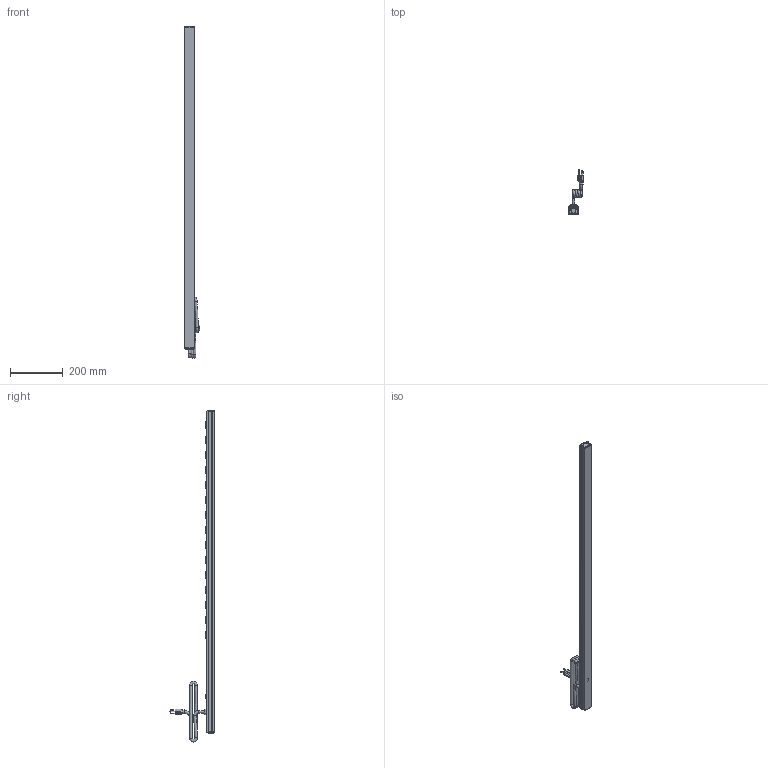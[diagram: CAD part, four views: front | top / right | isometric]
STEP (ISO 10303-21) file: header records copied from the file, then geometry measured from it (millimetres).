
FILE_DESCRIPTION(/* description */ (''),/* implementation_level */ '2;1');
FILE_NAME(/* name */ 'E:\Manufacturing\drawings\Web Drawings\POWER BARS\Surge Protection\1585, 87, 88 ''S'' series\STEP''s\1585H15A1S.stp',/* time_stamp */ '2019-01-14T12:23:38-05:00',/* author */ ('tfoster'),/* organization */ (''),/* preprocessor_version */ 'ST-DEVELOPER v17',/* originating_system */ 'Autodesk Inventor 2019',/* authorisation */ '');
FILE_SCHEMA (('AUTOMOTIVE_DESIGN { 1 0 10303 214 3 1 1 }'));
Products named in the file (14): 1585H15A1; 1585H8 top; 1585 bottom; End Cap; End Cap w breaker; Reset Switch; #30282; Cored 2; Power Switch Assembly; Power Switch; Power Switch pt; Surge Light; tamper proof screw; Receptacle
Assembly tree (30 placements, depth 3):
  1585H15A1
    1585H8 top
    1585 bottom
    End Cap
    End Cap w breaker
    Reset Switch
    #30282  x4
    Cored 2
    Power Switch Assembly
      Power Switch
      Power Switch pt
    Surge Light
    tamper proof screw
    Receptacle  x15
Bounding box: 60.19 x 170.82 x 1262.79 mm (x, y, z)
Volume: 590701.2 mm3; surface area: 507081.5 mm2
Topology: 29 solids, 29 shells, 1555 faces, 4112 edges, 2594 vertices
Faces by surface type: plane 907, cylinder 408, bspline 125, sphere 67, cone 34, torus 14
Full cylindrical faces by diameter (mm): 1 x1, 1.803 x3, 1.905 x2, 2.13 x20, 3 x2, 3.175 x12, 3.505 x12, 4.775 x1, 4.826 x1, 6.858 x1, 7.747 x1, 8 x1, 9.5 x5, 9.652 x1, 11 x1, 15.621 x1, 19.05 x2
Entity records: 30086 total; most frequent: CARTESIAN_POINT 11371, ORIENTED_EDGE 3994, DIRECTION 3405, EDGE_CURVE 1997, VERTEX_POINT 1322, LINE 1225, VECTOR 1225, AXIS2_PLACEMENT_3D 1090
